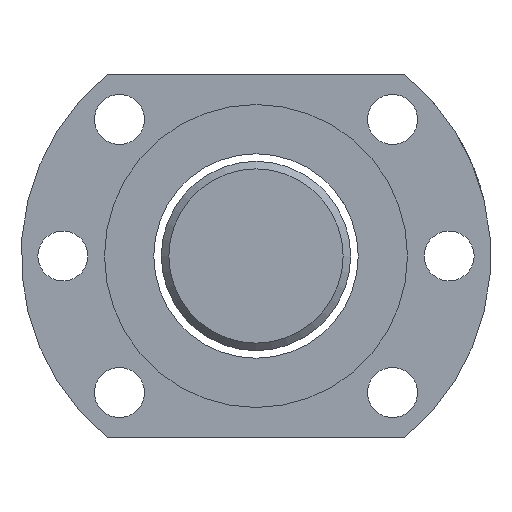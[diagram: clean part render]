
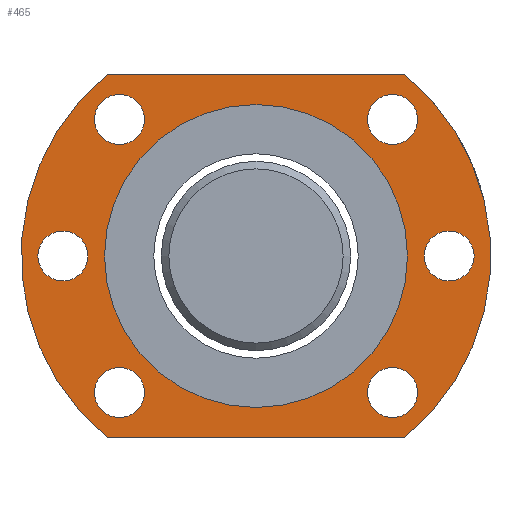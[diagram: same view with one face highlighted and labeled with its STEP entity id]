
A CAD part, left-side view. The second image highlights one B-rep face of the part: STEP entity #465.
In plain terms, the highlighted planar face has unit normal (-1, 0, 0).
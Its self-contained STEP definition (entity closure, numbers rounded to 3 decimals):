
#59=PLANE('',#541);
#76=LINE('',#782,#84);
#79=LINE('',#788,#87);
#84=VECTOR('',#630,1000.);
#87=VECTOR('',#635,1000.);
#125=ORIENTED_EDGE('',*,*,#202,.T.);
#126=ORIENTED_EDGE('',*,*,#206,.T.);
#127=ORIENTED_EDGE('',*,*,#208,.F.);
#128=ORIENTED_EDGE('',*,*,#210,.F.);
#129=ORIENTED_EDGE('',*,*,#212,.F.);
#130=ORIENTED_EDGE('',*,*,#219,.T.);
#131=ORIENTED_EDGE('',*,*,#216,.T.);
#132=ORIENTED_EDGE('',*,*,#190,.T.);
#133=ORIENTED_EDGE('',*,*,#213,.T.);
#134=ORIENTED_EDGE('',*,*,#221,.F.);
#135=ORIENTED_EDGE('',*,*,#204,.T.);
#190=EDGE_CURVE('',#240,#241,#281,.T.);
#202=EDGE_CURVE('',#252,#252,#287,.T.);
#204=EDGE_CURVE('',#254,#254,#289,.T.);
#206=EDGE_CURVE('',#256,#256,#291,.T.);
#208=EDGE_CURVE('',#258,#258,#293,.T.);
#210=EDGE_CURVE('',#260,#260,#295,.T.);
#212=EDGE_CURVE('',#262,#262,#297,.T.);
#213=EDGE_CURVE('',#241,#263,#76,.T.);
#216=EDGE_CURVE('',#265,#240,#79,.T.);
#219=EDGE_CURVE('',#263,#265,#298,.T.);
#221=EDGE_CURVE('',#267,#267,#300,.T.);
#240=VERTEX_POINT('',#711);
#241=VERTEX_POINT('',#712);
#252=VERTEX_POINT('',#755);
#254=VERTEX_POINT('',#760);
#256=VERTEX_POINT('',#765);
#258=VERTEX_POINT('',#770);
#260=VERTEX_POINT('',#775);
#262=VERTEX_POINT('',#780);
#263=VERTEX_POINT('',#783);
#265=VERTEX_POINT('',#789);
#267=VERTEX_POINT('',#798);
#281=CIRCLE('',#512,31.);
#287=CIRCLE('',#520,3.3);
#289=CIRCLE('',#523,3.3);
#291=CIRCLE('',#526,3.3);
#293=CIRCLE('',#529,3.3);
#295=CIRCLE('',#532,3.3);
#297=CIRCLE('',#535,3.3);
#298=CIRCLE('',#539,31.);
#300=CIRCLE('',#542,20.);
#331=EDGE_LOOP('',(#125));
#332=EDGE_LOOP('',(#126));
#333=EDGE_LOOP('',(#127));
#334=EDGE_LOOP('',(#128));
#335=EDGE_LOOP('',(#129));
#336=EDGE_LOOP('',(#130,#131,#132,#133));
#337=EDGE_LOOP('',(#134));
#338=EDGE_LOOP('',(#135));
#394=FACE_BOUND('',#331,.T.);
#395=FACE_BOUND('',#332,.T.);
#396=FACE_BOUND('',#333,.T.);
#397=FACE_BOUND('',#334,.T.);
#398=FACE_BOUND('',#335,.T.);
#399=FACE_BOUND('',#336,.T.);
#400=FACE_BOUND('',#337,.T.);
#401=FACE_BOUND('',#338,.T.);
#465=ADVANCED_FACE('',(#394,#395,#396,#397,#398,#399,#400,#401),#59,.T.);
#512=AXIS2_PLACEMENT_3D('',#710,#578,#579);
#520=AXIS2_PLACEMENT_3D('',#754,#596,#597);
#523=AXIS2_PLACEMENT_3D('',#759,#602,#603);
#526=AXIS2_PLACEMENT_3D('',#764,#608,#609);
#529=AXIS2_PLACEMENT_3D('',#769,#614,#615);
#532=AXIS2_PLACEMENT_3D('',#774,#620,#621);
#535=AXIS2_PLACEMENT_3D('',#779,#626,#627);
#539=AXIS2_PLACEMENT_3D('',#794,#640,#641);
#541=AXIS2_PLACEMENT_3D('',#796,#644,#645);
#542=AXIS2_PLACEMENT_3D('',#797,#646,#647);
#578=DIRECTION('',(-1.,0.,0.));
#579=DIRECTION('',(0.,0.,-1.));
#596=DIRECTION('',(1.,0.,0.));
#597=DIRECTION('',(0.,0.,1.));
#602=DIRECTION('',(1.,0.,0.));
#603=DIRECTION('',(0.,0.,1.));
#608=DIRECTION('',(1.,0.,0.));
#609=DIRECTION('',(0.,0.,1.));
#614=DIRECTION('',(-1.,0.,0.));
#615=DIRECTION('',(0.,0.,1.));
#620=DIRECTION('',(-1.,0.,0.));
#621=DIRECTION('',(0.,0.,1.));
#626=DIRECTION('',(-1.,0.,0.));
#627=DIRECTION('',(0.,0.,1.));
#630=DIRECTION('',(0.,1.,0.));
#635=DIRECTION('',(0.,-1.,0.));
#640=DIRECTION('',(-1.,0.,0.));
#641=DIRECTION('',(0.,0.,-1.));
#644=DIRECTION('',(-1.,0.,0.));
#645=DIRECTION('',(0.,0.,1.));
#646=DIRECTION('',(-1.,0.,0.));
#647=DIRECTION('',(0.,0.,-1.));
#710=CARTESIAN_POINT('',(-65.485,-52.353,-3.633));
#711=CARTESIAN_POINT('',(-65.485,-71.974,-27.633));
#712=CARTESIAN_POINT('',(-65.485,-71.974,20.367));
#754=CARTESIAN_POINT('',(-65.485,-70.384,14.398));
#755=CARTESIAN_POINT('',(-65.485,-70.384,17.698));
#759=CARTESIAN_POINT('',(-65.485,-77.853,-3.633));
#760=CARTESIAN_POINT('',(-65.485,-77.853,-0.333));
#764=CARTESIAN_POINT('',(-65.485,-70.384,-21.665));
#765=CARTESIAN_POINT('',(-65.485,-70.384,-18.365));
#769=CARTESIAN_POINT('',(-65.485,-34.322,-21.665));
#770=CARTESIAN_POINT('',(-65.485,-34.322,-18.365));
#774=CARTESIAN_POINT('',(-65.485,-34.322,14.398));
#775=CARTESIAN_POINT('',(-65.485,-34.322,17.698));
#779=CARTESIAN_POINT('',(-65.485,-26.853,-3.633));
#780=CARTESIAN_POINT('',(-65.485,-26.853,-0.333));
#782=CARTESIAN_POINT('',(-65.485,-71.974,20.367));
#783=CARTESIAN_POINT('',(-65.485,-32.731,20.367));
#788=CARTESIAN_POINT('',(-65.485,-32.731,-27.633));
#789=CARTESIAN_POINT('',(-65.485,-32.731,-27.633));
#794=CARTESIAN_POINT('',(-65.485,-52.353,-3.633));
#796=CARTESIAN_POINT('',(-65.485,-52.353,-3.633));
#797=CARTESIAN_POINT('',(-65.485,-52.353,-3.633));
#798=CARTESIAN_POINT('',(-65.485,-52.353,-23.633));
